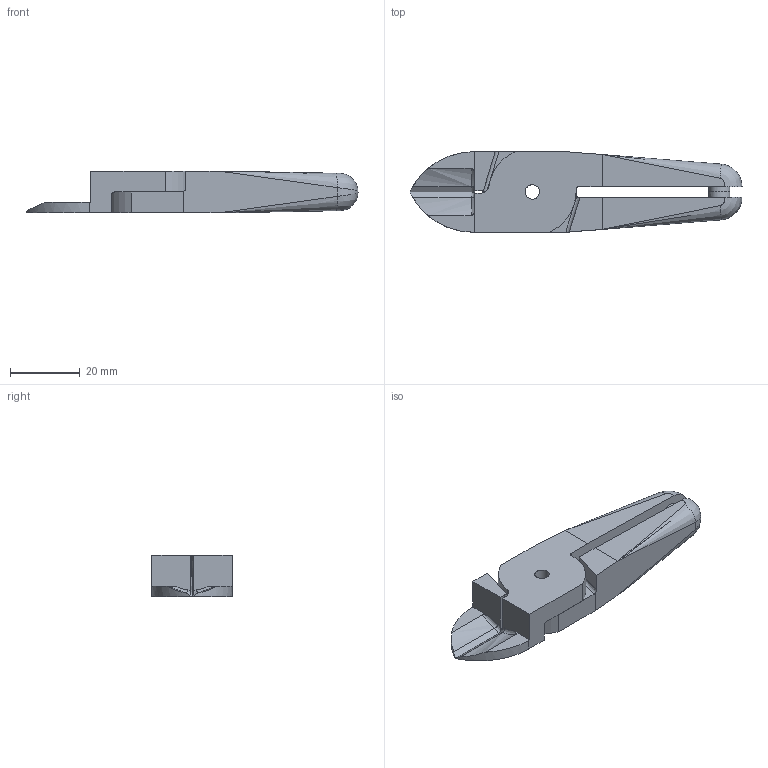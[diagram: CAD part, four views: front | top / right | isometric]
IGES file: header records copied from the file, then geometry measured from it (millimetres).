
Global section: file name: N20AJT v3; native system: unknown; preprocessor: unknown; author: unknown; organization: unknown; date: 20210406.162738; units: millimetre
Bounding box: 95 x 23 x 12 mm (x, y, z)
Volume: 16097.1 mm3; surface area: 8129.5 mm2
Topology: 2 solids, 2 shells, 74 faces, 198 edges, 126 vertices
Faces by surface type: bspline 74
